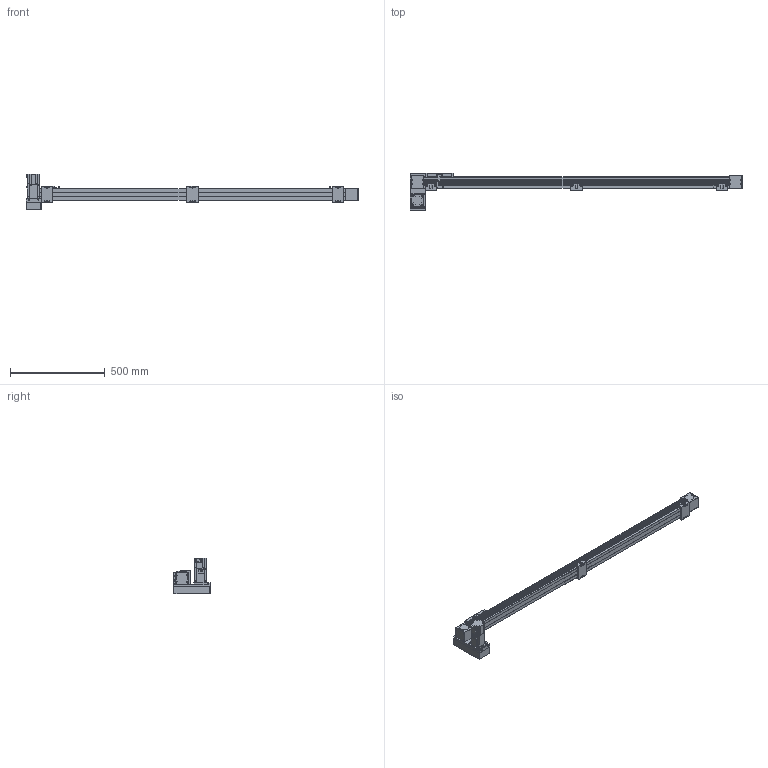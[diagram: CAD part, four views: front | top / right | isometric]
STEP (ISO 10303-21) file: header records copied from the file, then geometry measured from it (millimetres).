
FILE_DESCRIPTION(/* description */ ('STEP AP214'),/* implementation_level */ '2;1');
FILE_NAME(/* name */ 'SK60-P13-S1450-LD-T40-C1-N(0)',/* time_stamp */ '2023-04-06T04:39:06+02:00',/* author */ ('License CC BY-ND 4.0'),/* organization */ ('CADENAS'),/* preprocessor_version */ 'ST-DEVELOPER v19.3',/* originating_system */ 'PARTsolutions',/* authorisation */ ' ');
FILE_SCHEMA (('AUTOMOTIVE_DESIGN {1 0 10303 214 3 1 1}'));
Length unit declared in the file: millimetre
Products named in the file (10): SK60-P13-S1450-LD-T40-C1-N(0); PSC140-sensor; SK60-S450_seat; SK60-S450-BL-C1_slider; SK60_body3; SK60_body6; SK60-BL_body2; T40-p1; SK60-LD_fb; SK60-S1450-LD-C1_body
Assembly tree (17 placements, depth 2):
  SK60-P13-S1450-LD-T40-C1-N(0)
    PSC140-sensor  x3
    SK60-S450_seat  x3
    SK60-S450-BL-C1_slider
    SK60_body3  x3
    SK60_body6  x2
    SK60-BL_body2  x2
    T40-p1
    SK60-LD_fb
    SK60-S1450-LD-C1_body
Bounding box: 1755.5 x 199 x 189.7 mm (x, y, z)
Volume: 7129742.1 mm3; surface area: 865740.8 mm2
Topology: 17 solids, 17 shells, 854 faces, 2146 edges, 1413 vertices
Faces by surface type: plane 548, cylinder 278, cone 26, torus 2
Full cylindrical faces by diameter (mm): 2.8 x3, 3.3 x4, 4 x2, 4.5 x30, 4.6 x3, 4.917 x20, 5 x6, 5.478 x4, 5.5 x23, 6.5 x6, 7 x2, 8 x4, 8.5 x4, 9.988 x4, 10 x12, 14 x1, 47 x3, 50 x2
Entity records: 18663 total; most frequent: DIRECTION 3186, CARTESIAN_POINT 3151, ORIENTED_EDGE 2940, EDGE_CURVE 1470, AXIS2_PLACEMENT_3D 1069, LINE 1048, VECTOR 1048, VERTEX_POINT 1034
